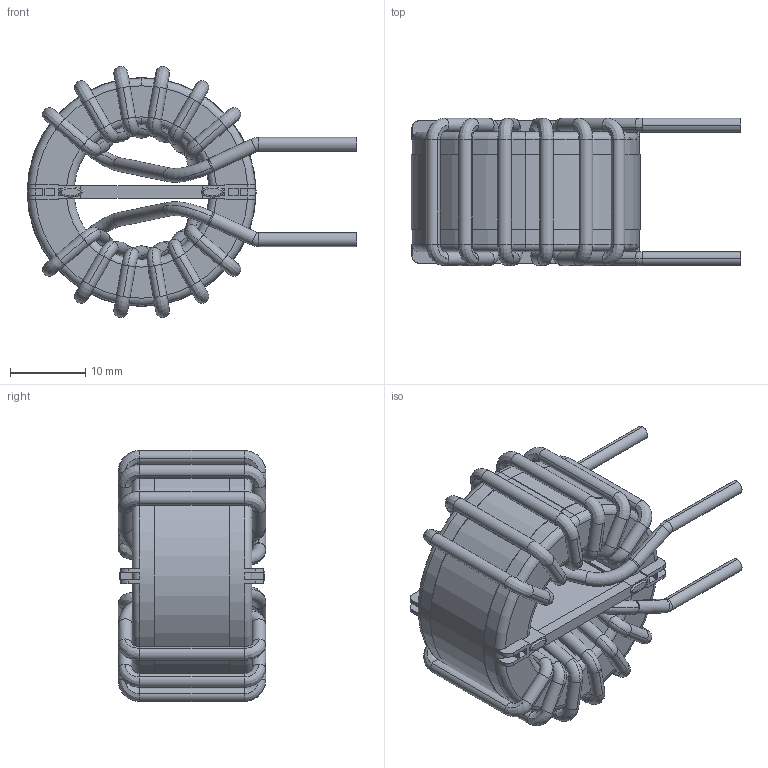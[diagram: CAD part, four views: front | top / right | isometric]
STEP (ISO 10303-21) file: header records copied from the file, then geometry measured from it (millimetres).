
FILE_DESCRIPTION (( 'STEP AP203' ), '1' );
FILE_NAME ('HN-V-302U-20A.STEP', '2020-06-23T13:55:29', ( 'Windows User' ), ( '' ), 'SwSTEP 2.0', 'SolidWorks 2015', '' );
FILE_SCHEMA (( 'CONFIG_CONTROL_DESIGN' ));
Length unit declared in the file: inch
Products named in the file (4): HN-V-302U-20A - CORE; HN-V-302U-20A; HN-V-302U-20A - FRAME; HN-V-302U-20A - COIL
Assembly tree (3 placements, depth 2):
  HN-V-302U-20A
    HN-V-302U-20A - CORE
    HN-V-302U-20A - COIL
    HN-V-302U-20A - FRAME
Bounding box: 43.9 x 19.61 x 33.45 mm (x, y, z)
Volume: 9764.4 mm3; surface area: 10552.3 mm2
Topology: 13 solids, 13 shells, 465 faces, 1252 edges, 814 vertices
Faces by surface type: cylinder 151, plane 132, bspline 98, torus 84
Entity records: 20692 total; most frequent: CARTESIAN_POINT 8995, ORIENTED_EDGE 2502, DIRECTION 2321, EDGE_CURVE 1251, AXIS2_PLACEMENT_3D 921, VERTEX_POINT 814, CIRCLE 548, VECTOR 479
